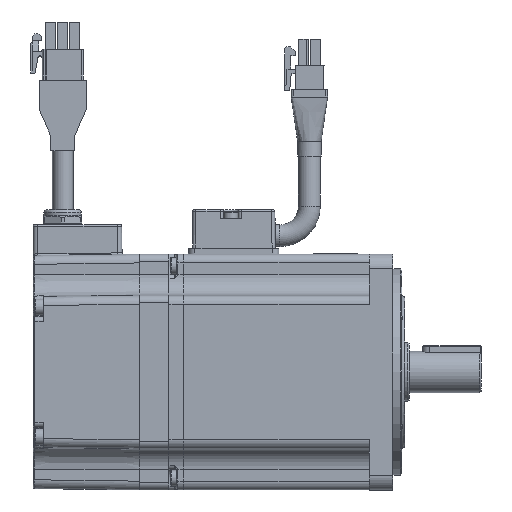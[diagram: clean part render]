
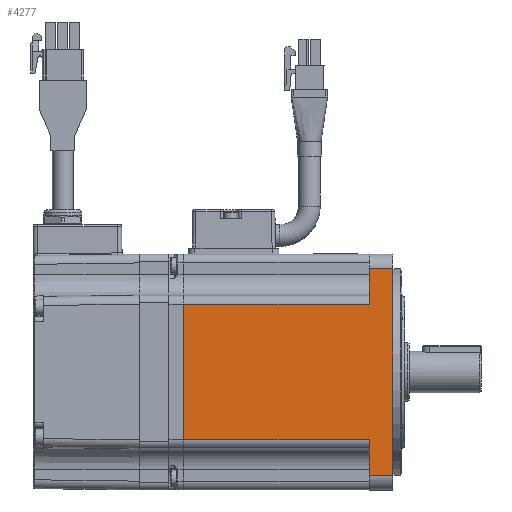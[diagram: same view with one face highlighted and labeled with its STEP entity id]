
A CAD part, left-side view. The second image highlights one B-rep face of the part: STEP entity #4277.
In plain terms, the highlighted planar face has unit normal (-1, 0, 0).
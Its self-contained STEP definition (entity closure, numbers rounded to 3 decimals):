
#4277 = ADVANCED_FACE( '', ( #9265 ), #9266, .T. );
#9265 = FACE_OUTER_BOUND( '', #17517, .T. );
#9266 = PLANE( '', #17518 );
#17517 = EDGE_LOOP( '', ( #31644, #31645, #31646, #31647, #31648, #31649, #31650, #31651 ) );
#17518 = AXIS2_PLACEMENT_3D( '', #31652, #31653, #31654 );
#31644 = ORIENTED_EDGE( '', *, *, #46207, .F. );
#31645 = ORIENTED_EDGE( '', *, *, #46582, .T. );
#31646 = ORIENTED_EDGE( '', *, *, #46653, .F. );
#31647 = ORIENTED_EDGE( '', *, *, #46094, .T. );
#31648 = ORIENTED_EDGE( '', *, *, #46654, .F. );
#31649 = ORIENTED_EDGE( '', *, *, #46655, .T. );
#31650 = ORIENTED_EDGE( '', *, *, #46656, .F. );
#31651 = ORIENTED_EDGE( '', *, *, #45939, .T. );
#31652 = CARTESIAN_POINT( '', ( -40., 197.846, 40. ) );
#31653 = DIRECTION( '', ( -1., 0., 0. ) );
#31654 = DIRECTION( '', ( 0., 0., 1. ) );
#45939 = EDGE_CURVE( '', #54655, #54652, #54656, .T. );
#46094 = EDGE_CURVE( '', #54894, #54891, #54895, .T. );
#46207 = EDGE_CURVE( '', #55084, #54652, #55086, .T. );
#46582 = EDGE_CURVE( '', #55084, #55672, #55674, .F. );
#46653 = EDGE_CURVE( '', #54894, #55672, #55779, .T. );
#46654 = EDGE_CURVE( '', #55780, #54891, #55781, .T. );
#46655 = EDGE_CURVE( '', #55780, #55782, #55783, .F. );
#46656 = EDGE_CURVE( '', #54655, #55782, #55784, .T. );
#54652 = VERTEX_POINT( '', #67476 );
#54655 = VERTEX_POINT( '', #67479 );
#54656 = LINE( '', #67480, #67481 );
#54891 = VERTEX_POINT( '', #67907 );
#54894 = VERTEX_POINT( '', #67910 );
#54895 = LINE( '', #67911, #67912 );
#55084 = VERTEX_POINT( '', #68321 );
#55086 = LINE( '', #68323, #68324 );
#55672 = VERTEX_POINT( '', #69362 );
#55674 = LINE( '', #69364, #69365 );
#55779 = LINE( '', #69553, #69554 );
#55780 = VERTEX_POINT( '', #69555 );
#55781 = LINE( '', #69556, #69557 );
#55782 = VERTEX_POINT( '', #69558 );
#55783 = LINE( '', #69559, #69560 );
#55784 = LINE( '', #69561, #69562 );
#67476 = CARTESIAN_POINT( '', ( -40., 71.81, 23. ) );
#67479 = CARTESIAN_POINT( '', ( -40., 8.81, 23. ) );
#67480 = CARTESIAN_POINT( '', ( -40., 197.846, 23. ) );
#67481 = VECTOR( '', #81697, 1000. );
#67907 = CARTESIAN_POINT( '', ( -40., 0.81, -35. ) );
#67910 = CARTESIAN_POINT( '', ( -40., 8.81, -35. ) );
#67911 = CARTESIAN_POINT( '', ( -40., 197.846, -35. ) );
#67912 = VECTOR( '', #81882, 1000. );
#68321 = CARTESIAN_POINT( '', ( -40., 71.81, -23. ) );
#68323 = CARTESIAN_POINT( '', ( -40., 71.81, 40. ) );
#68324 = VECTOR( '', #82024, 1000. );
#69362 = CARTESIAN_POINT( '', ( -40., 8.81, -23. ) );
#69364 = CARTESIAN_POINT( '', ( -40., 197.846, -23. ) );
#69365 = VECTOR( '', #82448, 1000. );
#69553 = CARTESIAN_POINT( '', ( -40., 8.81, 40. ) );
#69554 = VECTOR( '', #82514, 1000. );
#69555 = CARTESIAN_POINT( '', ( -40., 0.81, 35. ) );
#69556 = CARTESIAN_POINT( '', ( -40., 0.81, 40. ) );
#69557 = VECTOR( '', #82515, 1000. );
#69558 = CARTESIAN_POINT( '', ( -40., 8.81, 35. ) );
#69559 = CARTESIAN_POINT( '', ( -40., 197.846, 35. ) );
#69560 = VECTOR( '', #82516, 1000. );
#69561 = CARTESIAN_POINT( '', ( -40., 8.81, 40. ) );
#69562 = VECTOR( '', #82517, 1000. );
#81697 = DIRECTION( '', ( 0., 1., 0. ) );
#81882 = DIRECTION( '', ( 0., -1., 0. ) );
#82024 = DIRECTION( '', ( 0., 0., 1. ) );
#82448 = DIRECTION( '', ( 0., 1., 0. ) );
#82514 = DIRECTION( '', ( 0., 0., 1. ) );
#82515 = DIRECTION( '', ( 0., 0., -1. ) );
#82516 = DIRECTION( '', ( 0., -1., 0. ) );
#82517 = DIRECTION( '', ( 0., 0., 1. ) );
